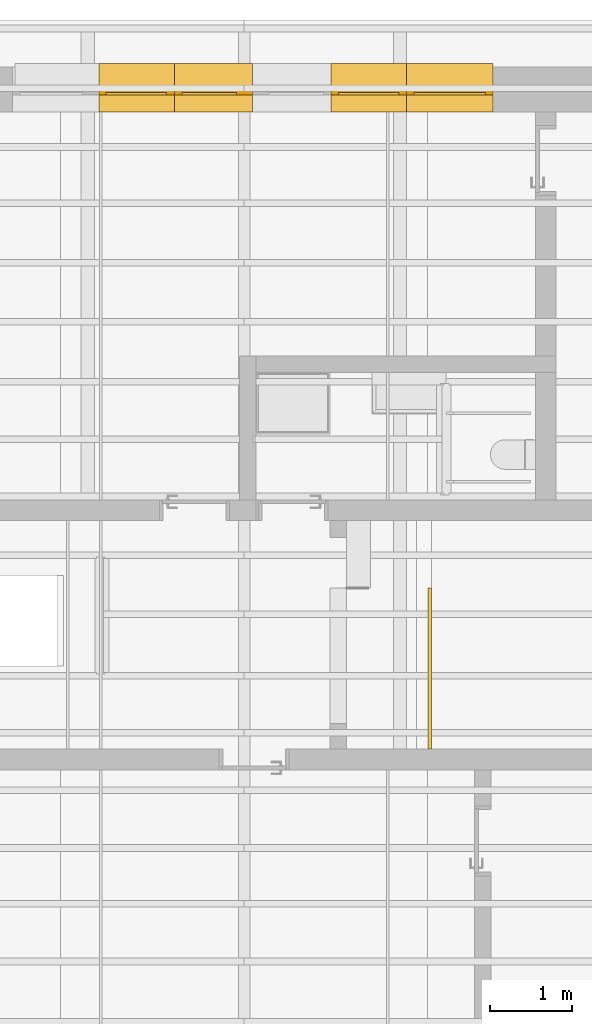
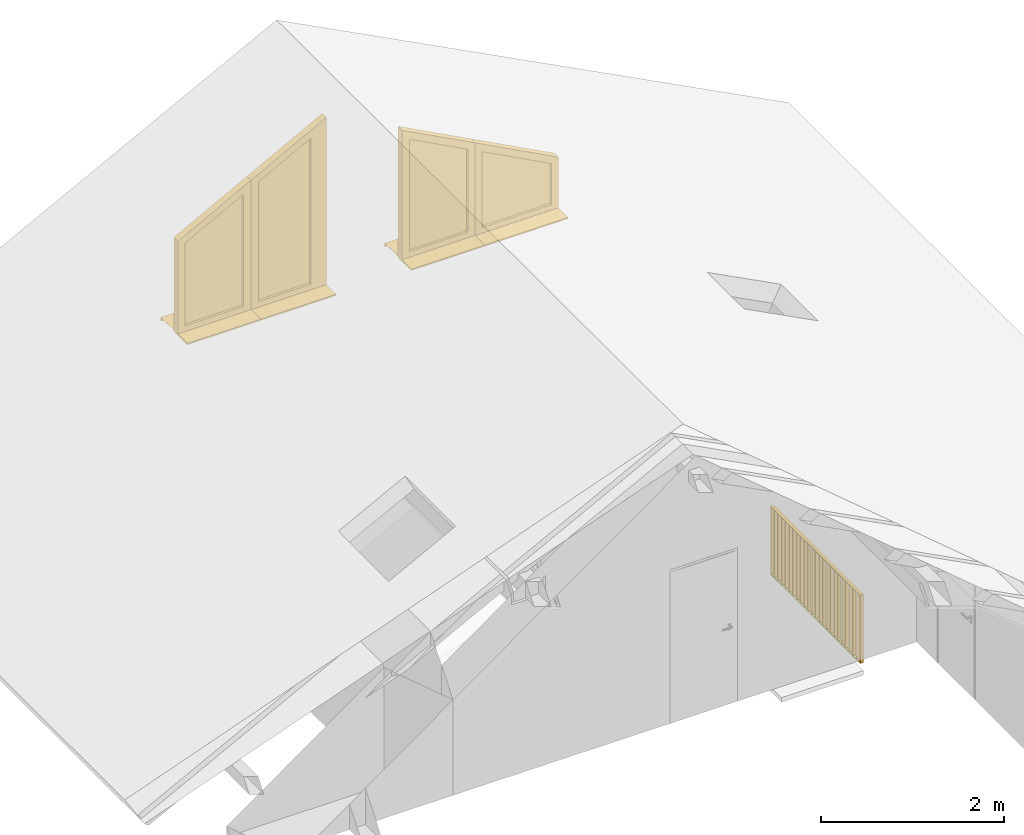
# One storey, part 15 of 18: 4 windows, 1 railing.
"""IFC2X3 building model written with IfcOpenShell, lengths in metres."""

from ifc_helpers import new_model, entity, si_unit, converted_unit, derived_unit, direction, frame, frame_2d, origin, origin_2d_with_axis, place, context, subcontext, project, spatial, polyline, rectangle, outline, extrude, faceted_brep, source, transform, mapped, material, material_list, type_object, type_shapes, element, save


model = new_model("IFC2X3")

# Units and contexts
model_context = context("Model", 3, precision=1e-05, world=origin(), true_north=direction((6.123233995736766e-17, 1.0)))
body_context = subcontext(model_context, "Body", "Model", "MODEL_VIEW")
ifc_project = project(units=[si_unit("LENGTHUNIT", "METRE"), si_unit("AREAUNIT", "SQUARE_METRE"), si_unit("VOLUMEUNIT", "CUBIC_METRE"), si_unit("POWERUNIT", "WATT"), derived_unit("USERDEFINED", [(si_unit("MASSUNIT", "GRAM", prefix="KILO"), 1), (si_unit("TIMEUNIT", "SECOND"), -3)]), derived_unit("THERMALRESISTANCEUNIT", [(si_unit("MASSUNIT", "GRAM", prefix="KILO"), -1), (si_unit("TIMEUNIT", "SECOND"), 3), (si_unit("THERMODYNAMICTEMPERATUREUNIT", "KELVIN"), 1)]), derived_unit("USERDEFINED", [(si_unit("MASSUNIT", "GRAM", prefix="KILO"), 1), (si_unit("TIMEUNIT", "SECOND"), -2), (si_unit("THERMODYNAMICTEMPERATUREUNIT", "KELVIN"), -1)]), derived_unit("THERMALTRANSMITTANCEUNIT", [(si_unit("MASSUNIT", "GRAM", prefix="KILO"), 1), (si_unit("TIMEUNIT", "SECOND"), -3), (si_unit("THERMODYNAMICTEMPERATUREUNIT", "KELVIN"), -1)]), converted_unit("PLANEANGLEUNIT", "DEGREE", entity("IfcPlaneAngleMeasure", 0.017453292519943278), si_unit("PLANEANGLEUNIT", "RADIAN"), dimensions=[0, 0, 0, 0, 0, 0, 0]), derived_unit("MOMENTOFINERTIAUNIT", [(si_unit("LENGTHUNIT", "METRE"), 4)])], contexts=[model_context])

# Site, building, storey
site_placement = place(None, origin())
site = spatial("IfcSite", under=ifc_project, at=site_placement, Name="Default", CompositionType="ELEMENT")
building_placement = place(site_placement, origin())
building = spatial("IfcBuilding", under=site, at=building_placement, CompositionType="ELEMENT")
storey_placement = place(building_placement, frame((0.0, 0.0, 5.4)))
storey = spatial("IfcBuildingStorey", under=building, at=storey_placement, Name="1. Obergeschoss", CompositionType="ELEMENT", Elevation=5.4)

# Windows
ifc_material_1 = material(Name="Holz - generisch 140-100-70")
ifc_material_2 = material(Name="Kunststoff - grau 70-70-70")
ifc_material_3 = material(Name="Glas - Isolierverglasung klar")
ifc_material_list = material_list([ifc_material_1, ifc_material_2, ifc_material_3])
window_style_1 = type_object("IfcWindowStyle", Name="FE Schräg 1 tlg - Fix:920 x 1258", ConstructionType="NOTDEFINED", OperationType="NOTDEFINED", ParameterTakesPrecedence=False, Sizeable=False, material=ifc_material_list)
shared_shape_1 = source(origin(), body_context, "Body", "SolidModel", [
    extrude(outline(polyline([(-0.07333333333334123, -0.014333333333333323), (0.1366666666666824, -0.014333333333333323), (0.1366666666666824, 0.010666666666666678), (-0.06333333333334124, 0.010666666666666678), (-0.06333333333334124, 0.0036666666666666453), (-0.07333333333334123, 0.0036666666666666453), (-0.07333333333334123, -0.014333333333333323)])), frame((0.9200000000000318, 0.6433333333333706, 0.010666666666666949), z_axis=(-1.0, 0.0, 0.0), x_axis=(0.0, 1.0, 0.0)), (0.0, 0.0, 1.0), 0.9199999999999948),
    extrude(outline(polyline([(-0.9960295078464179, -0.4599999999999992), (0.7514431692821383, -0.4599999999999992), (0.7514431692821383, 0.4599999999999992), (-0.506856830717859, 0.4599999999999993), (-0.9960295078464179, -0.4599999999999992)]), holes=[polyline([(-0.8435858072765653, -0.36500000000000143), (-0.4527793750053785, 0.3699999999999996), (0.6514431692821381, 0.3699999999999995), (0.6514431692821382, -0.36500000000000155), (-0.8435858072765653, -0.36500000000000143)])]), frame((0.4600000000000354, 0.8700000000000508, 0.7514431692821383), z_axis=(0.0, -1.0, 0.0), x_axis=(0.0, 0.0, -1.0)), (0.0, 0.0, 1.0), 0.08999999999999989),
    extrude(outline(polyline([(-0.8452160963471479, -0.3675000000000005), (0.6498128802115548, -0.3675000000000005), (0.6498128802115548, 0.3675000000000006), (-0.4544096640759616, 0.3675000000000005), (-0.8452160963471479, -0.3675000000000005)])), frame((0.4625000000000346, 0.855000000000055, 0.7498128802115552), z_axis=(0.0, -1.0, 0.0), x_axis=(0.0, 0.0, -1.0)), (0.0, 0.0, 1.0), 0.04399999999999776),
    faceted_brep([(0.9200000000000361, 1.1620000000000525, 0.011185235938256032), (0.0, 1.1620000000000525, 0.011185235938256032), (0.0, 1.1400000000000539, 0.01200005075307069), (0.0, 0.8720000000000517, 0.021925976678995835), (0.9200000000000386, 0.8720000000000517, 0.021925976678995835), (0.9200000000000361, 1.1400000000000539, 0.01200005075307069), (0.9200000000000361, 1.1620000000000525, -0.028814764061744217), (0.0, 1.1620000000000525, -0.028814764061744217), (0.9200000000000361, 1.1500000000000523, -0.028814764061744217), (0.0, 1.1500000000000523, -0.028814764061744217), (0.9200000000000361, 1.1500000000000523, -0.0268147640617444), (0.0, 1.1500000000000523, -0.0268147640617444), (0.9200000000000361, 1.1600000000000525, -0.0268147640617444), (0.0, 1.1600000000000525, -0.0268147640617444), (0.9200000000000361, 1.1600000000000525, 0.009259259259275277), (0.0, 1.1600000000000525, 0.009259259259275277), (0.9200000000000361, 1.1400000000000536, 0.010000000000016), (0.9200000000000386, 0.8700000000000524, 0.02000000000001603), (0.0, 0.8700000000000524, 0.02000000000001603), (0.0, 1.1400000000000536, 0.010000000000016), (0.9200000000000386, 0.8700000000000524, 0.040000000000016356), (0.0, 0.8700000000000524, 0.040000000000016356), (0.9200000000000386, 0.8720000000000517, 0.040000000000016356), (0.0, 0.8720000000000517, 0.040000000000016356)], [[[0, 1, 2, 3, 4, 5]], [[6, 7, 1, 0]], [[8, 9, 7, 6]], [[10, 11, 9, 8]], [[12, 13, 11, 10]], [[14, 15, 13, 12]], [[16, 17, 18, 19, 15, 14]], [[20, 21, 18, 17]], [[22, 23, 21, 20]], [[4, 3, 23, 22]], [[16, 14, 12, 10, 8, 6, 0, 5]], [[19, 18, 21, 23, 3, 2]], [[5, 4, 22, 20, 17, 16]], [[2, 1, 7, 9, 11, 13, 15, 19]]]),
])
type_shapes(window_style_1, [shared_shape_1])
window_1_placement = place(storey_placement, frame((34.17797000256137, 27.472272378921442, 0.7024999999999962)))
element("IfcWindow", 1, at=window_1_placement, inside=storey, type_object=window_style_1, material=ifc_material_list, Name="FE Schräg 1 tlg - Fix:920 x 1258", ObjectType="FE Schräg 1 tlg - Fix:920 x 1258", OverallHeight=2.597472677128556, OverallWidth=1.0257961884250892, context=body_context, shape_type="MappedRepresentation", body=[
    mapped(shared_shape_1, transform((0.0, 0.0, 0.0), scale=1.0)),
])
window_style_2 = type_object("IfcWindowStyle", Name="FE Schräg 1 tlg - Fix:950 x 1747", ConstructionType="NOTDEFINED", OperationType="NOTDEFINED", ParameterTakesPrecedence=False, Sizeable=False, material=ifc_material_list)
shared_shape_2 = source(origin(), body_context, "Body", "SolidModel", [
    extrude(outline(polyline([(-0.014333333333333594, -0.07333333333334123), (0.0036666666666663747, -0.07333333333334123), (0.0036666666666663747, -0.06333333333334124), (0.010666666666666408, -0.06333333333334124), (0.010666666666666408, 0.1366666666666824), (-0.014333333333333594, 0.1366666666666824), (-0.014333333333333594, -0.07333333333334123)])), frame((0.0, 0.07333333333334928, 0.010666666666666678), z_axis=(1.0, 0.0, 0.0), x_axis=(0.0, 0.0, -1.0)), (0.0, 0.0, 1.0), 0.9499999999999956),
    extrude(outline(polyline([(-1.2525929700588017, -0.4749999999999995), (1.0000309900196, -0.4749999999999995), (1.0000309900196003, 0.4749999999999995), (-0.7474690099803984, 0.47499999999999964), (-1.2525929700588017, -0.4749999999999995)]), holes=[polyline([(-1.0469783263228, -0.27999999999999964), (-0.6933915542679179, 0.3850000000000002), (0.9000309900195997, 0.38500000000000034), (0.9000309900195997, -0.27999999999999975), (-1.0469783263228, -0.27999999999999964)])]), frame((0.47500000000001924, 0.2100000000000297, 1.0000309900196), z_axis=(0.0, 1.0, 0.0), x_axis=(0.0, 0.0, -1.0)), (0.0, 0.0, 1.0), 0.08999999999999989),
    extrude(outline(polyline([(-1.061901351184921, -0.3325), (0.8851079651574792, -0.3325), (0.8851079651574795, 0.3325), (-0.7083145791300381, 0.3325), (-1.061901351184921, -0.3325)])), frame((0.4225000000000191, 0.24100000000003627, 0.9851079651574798), z_axis=(0.0, 1.0, 0.0), x_axis=(0.0, 0.0, -1.0)), (0.0, 0.0, 1.0), 0.043999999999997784),
    faceted_brep([(0.0, 0.5920000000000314, 0.011185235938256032), (0.0, 0.5700000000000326, 0.01200005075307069), (0.0, 0.30200000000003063, 0.021925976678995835), (0.9500000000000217, 0.30200000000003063, 0.021925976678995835), (0.9500000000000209, 0.5700000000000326, 0.01200005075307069), (0.9500000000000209, 0.5920000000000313, 0.011185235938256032), (0.0, 0.5920000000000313, -0.028814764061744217), (0.9500000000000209, 0.5920000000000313, -0.028814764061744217), (0.0, 0.5800000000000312, -0.028814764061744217), (0.9500000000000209, 0.5800000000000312, -0.028814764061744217), (0.0, 0.5800000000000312, -0.0268147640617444), (0.9500000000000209, 0.5800000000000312, -0.0268147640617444), (0.0, 0.5900000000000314, -0.0268147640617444), (0.9500000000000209, 0.5900000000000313, -0.0268147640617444), (0.0, 0.5900000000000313, 0.009259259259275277), (0.9500000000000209, 0.5900000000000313, 0.009259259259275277), (0.0, 0.5700000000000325, 0.010000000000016), (0.9500000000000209, 0.5700000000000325, 0.010000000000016), (0.9500000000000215, 0.30000000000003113, 0.02000000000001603), (0.0, 0.30000000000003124, 0.02000000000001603), (0.0, 0.30000000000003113, 0.040000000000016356), (0.9500000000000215, 0.30000000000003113, 0.040000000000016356), (0.0, 0.30200000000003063, 0.040000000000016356), (0.9500000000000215, 0.30200000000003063, 0.040000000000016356)], [[[0, 1, 2, 3, 4, 5]], [[6, 0, 5, 7]], [[8, 6, 7, 9]], [[10, 8, 9, 11]], [[12, 10, 11, 13]], [[14, 12, 13, 15]], [[16, 14, 15, 17, 18, 19]], [[20, 19, 18, 21]], [[22, 20, 21, 23]], [[2, 22, 23, 3]], [[16, 1, 0, 6, 8, 10, 12, 14]], [[17, 4, 3, 23, 21, 18]], [[1, 16, 19, 20, 22, 2]], [[4, 17, 15, 13, 11, 9, 7, 5]]]),
])
type_shapes(window_style_2, [shared_shape_2])
window_2_placement = place(storey_placement, frame((32.27797000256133, 28.042272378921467, 0.7024999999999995)))
element("IfcWindow", 2, at=window_2_placement, inside=storey, type_object=window_style_2, material=ifc_material_list, Name="FE Schräg 1 tlg - Fix:950 x 1747", ObjectType="FE Schräg 1 tlg - Fix:950 x 1747", OverallHeight=3.1026239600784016, OverallWidth=1.0557961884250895, context=body_context, shape_type="MappedRepresentation", body=[
    mapped(shared_shape_2, transform((0.0, 0.0, 0.0), scale=1.0)),
])
window_style_3 = type_object("IfcWindowStyle", Name="FE Schräg 1 tlg - Fix:920 x 1258", ConstructionType="NOTDEFINED", OperationType="NOTDEFINED", ParameterTakesPrecedence=False, Sizeable=False, material=ifc_material_list)
shared_shape_3 = source(origin(), body_context, "Body", "SolidModel", [
    extrude(outline(polyline([(-0.014333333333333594, -0.07333333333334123), (0.0036666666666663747, -0.07333333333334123), (0.0036666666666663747, -0.06333333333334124), (0.010666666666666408, -0.06333333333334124), (0.010666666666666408, 0.1366666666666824), (-0.014333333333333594, 0.1366666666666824), (-0.014333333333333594, -0.07333333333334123)])), frame((0.0, 0.07333333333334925, 0.010666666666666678), z_axis=(1.0, 0.0, 0.0), x_axis=(0.0, 0.0, -1.0)), (0.0, 0.0, 1.0), 0.9199999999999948),
    extrude(outline(polyline([(-0.9960295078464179, -0.4599999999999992), (0.7514431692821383, -0.4599999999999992), (0.7514431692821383, 0.4599999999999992), (-0.506856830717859, 0.4599999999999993), (-0.9960295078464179, -0.4599999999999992)]), holes=[polyline([(-0.8435858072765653, -0.36500000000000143), (-0.4527793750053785, 0.3699999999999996), (0.6514431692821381, 0.3699999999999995), (0.6514431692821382, -0.36500000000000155), (-0.8435858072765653, -0.36500000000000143)])]), frame((0.4600000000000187, 0.21000000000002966, 0.7514431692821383), z_axis=(0.0, 1.0, 0.0), x_axis=(0.0, 0.0, -1.0)), (0.0, 0.0, 1.0), 0.08999999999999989),
    extrude(outline(polyline([(-0.8452160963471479, -0.3675000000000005), (0.6498128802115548, -0.3675000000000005), (0.6498128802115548, 0.3675000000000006), (-0.4544096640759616, 0.3675000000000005), (-0.8452160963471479, -0.3675000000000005)])), frame((0.45750000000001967, 0.24100000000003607, 0.7498128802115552), z_axis=(0.0, 1.0, 0.0), x_axis=(0.0, 0.0, -1.0)), (0.0, 0.0, 1.0), 0.04399999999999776),
    faceted_brep([(0.0, 0.5920000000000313, 0.011185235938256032), (0.0, 0.5700000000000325, 0.01200005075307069), (0.0, 0.3020000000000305, 0.021925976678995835), (0.920000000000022, 0.3020000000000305, 0.021925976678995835), (0.9200000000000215, 0.5700000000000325, 0.01200005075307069), (0.9200000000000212, 0.5920000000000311, 0.011185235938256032), (0.0, 0.5920000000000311, -0.028814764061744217), (0.9200000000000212, 0.5920000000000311, -0.028814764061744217), (0.0, 0.5800000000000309, -0.028814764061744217), (0.9200000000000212, 0.5800000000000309, -0.028814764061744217), (0.0, 0.5800000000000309, -0.0268147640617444), (0.9200000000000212, 0.5800000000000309, -0.0268147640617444), (0.0, 0.5900000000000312, -0.0268147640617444), (0.9200000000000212, 0.5900000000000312, -0.0268147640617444), (0.0, 0.5900000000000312, 0.009259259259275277), (0.9200000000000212, 0.5900000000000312, 0.009259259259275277), (0.0, 0.5700000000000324, 0.010000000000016), (0.9200000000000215, 0.5700000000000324, 0.010000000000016), (0.920000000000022, 0.3000000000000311, 0.02000000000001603), (0.0, 0.30000000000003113, 0.02000000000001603), (0.0, 0.3000000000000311, 0.040000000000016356), (0.920000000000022, 0.3000000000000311, 0.040000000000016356), (0.0, 0.3020000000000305, 0.040000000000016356), (0.920000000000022, 0.3020000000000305, 0.040000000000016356)], [[[0, 1, 2, 3, 4, 5]], [[6, 0, 5, 7]], [[8, 6, 7, 9]], [[10, 8, 9, 11]], [[12, 10, 11, 13]], [[14, 12, 13, 15]], [[16, 14, 15, 17, 18, 19]], [[20, 19, 18, 21]], [[22, 20, 21, 23]], [[2, 22, 23, 3]], [[16, 1, 0, 6, 8, 10, 12, 14]], [[17, 4, 3, 23, 21, 18]], [[1, 16, 19, 20, 22, 2]], [[4, 17, 15, 13, 11, 9, 7, 5]]]),
])
type_shapes(window_style_3, [shared_shape_3])
window_3_placement = place(storey_placement, frame((31.357970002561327, 28.042272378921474, 0.7024999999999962)))
element("IfcWindow", 3, at=window_3_placement, inside=storey, type_object=window_style_3, material=ifc_material_list, Name="FE Schräg 1 tlg - Fix:920 x 1258", ObjectType="FE Schräg 1 tlg - Fix:920 x 1258", OverallHeight=2.597472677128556, OverallWidth=1.0257961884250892, context=body_context, shape_type="MappedRepresentation", body=[
    mapped(shared_shape_3, transform((0.0, 0.0, 0.0), scale=1.0)),
])
window_style_4 = type_object("IfcWindowStyle", Name="FE Schräg 1 tlg - Fix:700 x 1050", ConstructionType="NOTDEFINED", OperationType="NOTDEFINED", ParameterTakesPrecedence=False, Sizeable=False, material=ifc_material_list)
shared_shape_4 = source(origin(), body_context, "Body", "SolidModel", [
    extrude(outline(polyline([(-0.07333333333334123, -0.014333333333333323), (0.1366666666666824, -0.014333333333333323), (0.1366666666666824, 0.010666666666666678), (-0.06333333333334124, 0.010666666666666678), (-0.06333333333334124, 0.0036666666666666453), (-0.07333333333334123, 0.0036666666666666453), (-0.07333333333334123, -0.014333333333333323)])), frame((1.0500000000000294, 0.6433333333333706, 0.010666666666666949), z_axis=(-1.0, 0.0, 0.0), x_axis=(0.0, 1.0, 0.0)), (0.0, 0.0, 1.0), 1.0499999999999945),
    extrude(outline(polyline([(-0.768721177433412, -0.5249999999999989), (0.4895737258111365, -0.5249999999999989), (0.48957372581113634, 0.5249999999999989), (-0.2104262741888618, 0.524999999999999), (-0.768721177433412, -0.5249999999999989)]), holes=[polyline([(-0.6189360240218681, -0.43500000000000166), (-0.15634881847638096, 0.43500000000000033), (0.3895737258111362, 0.43500000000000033), (0.3895737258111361, -0.4350000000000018), (-0.6189360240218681, -0.43500000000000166)])]), frame((0.5250000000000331, 0.8700000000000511, 0.4895737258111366), z_axis=(0.0, -1.0, 0.0), x_axis=(0.0, 0.0, -1.0)), (0.0, 0.0, 1.0), 0.08999999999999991),
    extrude(outline(polyline([(-0.6199016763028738, -0.4350000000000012), (0.38860807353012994, -0.4350000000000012), (0.3886080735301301, 0.43500000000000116), (-0.15731447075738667, 0.43500000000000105), (-0.6199016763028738, -0.4350000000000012)])), frame((0.5250000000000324, 0.8550000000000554, 0.48860807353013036), z_axis=(0.0, -1.0, 0.0), x_axis=(0.0, 0.0, -1.0)), (0.0, 0.0, 1.0), 0.043999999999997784),
    faceted_brep([(1.0500000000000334, 1.1620000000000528, 0.011185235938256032), (0.0, 1.162000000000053, 0.011185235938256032), (0.0, 1.1400000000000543, 0.01200005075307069), (0.0, 0.8720000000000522, 0.021925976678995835), (1.0500000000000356, 0.8720000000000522, 0.021925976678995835), (1.0500000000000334, 1.1400000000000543, 0.01200005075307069), (1.0500000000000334, 1.1620000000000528, -0.028814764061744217), (0.0, 1.1620000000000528, -0.028814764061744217), (1.0500000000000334, 1.1500000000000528, -0.028814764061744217), (0.0, 1.1500000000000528, -0.028814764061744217), (1.0500000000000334, 1.1500000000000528, -0.0268147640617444), (0.0, 1.1500000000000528, -0.0268147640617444), (1.0500000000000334, 1.160000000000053, -0.0268147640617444), (0.0, 1.160000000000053, -0.0268147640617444), (1.0500000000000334, 1.160000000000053, 0.009259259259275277), (0.0, 1.160000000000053, 0.009259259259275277), (1.0500000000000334, 1.140000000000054, 0.010000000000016), (1.0500000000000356, 0.8700000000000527, 0.02000000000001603), (0.0, 0.870000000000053, 0.02000000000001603), (0.0, 1.140000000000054, 0.010000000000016), (1.0500000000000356, 0.8700000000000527, 0.040000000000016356), (0.0, 0.8700000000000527, 0.040000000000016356), (1.0500000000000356, 0.8720000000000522, 0.040000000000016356), (0.0, 0.8720000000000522, 0.040000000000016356)], [[[0, 1, 2, 3, 4, 5]], [[6, 7, 1, 0]], [[8, 9, 7, 6]], [[10, 11, 9, 8]], [[12, 13, 11, 10]], [[14, 15, 13, 12]], [[16, 17, 18, 19, 15, 14]], [[20, 21, 18, 17]], [[22, 23, 21, 20]], [[4, 3, 23, 22]], [[16, 14, 12, 10, 8, 6, 0, 5]], [[19, 18, 21, 23, 3, 2]], [[5, 4, 22, 20, 17, 16]], [[2, 1, 7, 9, 11, 13, 15, 19]]]),
])
type_shapes(window_style_4, [shared_shape_4])
window_4_placement = place(storey_placement, frame((35.097970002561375, 27.47227237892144, 0.7024999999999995)))
element("IfcWindow", 4, at=window_4_placement, inside=storey, type_object=window_style_4, material=ifc_material_list, Name="FE Schräg 1 tlg - Fix:700 x 1050", ObjectType="FE Schräg 1 tlg - Fix:700 x 1050", OverallHeight=2.258715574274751, OverallWidth=1.1557961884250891, context=body_context, shape_type="MappedRepresentation", body=[
    mapped(shared_shape_4, transform((0.0, 0.0, 0.0), scale=1.0)),
])

# Railing
railing_type = type_object("IfcRailingType", Name="Geländer:Vertikale Stäbe", PredefinedType="NOTDEFINED")
railing_placement = place(storey_placement, frame((35.35875489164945, 20.30227237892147, -0.24500000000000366)))
element("IfcRailing", 5, at=railing_placement, inside=storey, type_object=railing_type, material=ifc_material_2, Name="Geländer:Vertikale Stäbe", ObjectType="Geländer:Vertikale Stäbe", PredefinedType="NOTDEFINED", context=body_context, shape_type="SweptSolid", body=[
    extrude(rectangle(XDim=0.010000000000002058, YDim=0.03999999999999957, at=origin_2d_with_axis()), frame((0.020000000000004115, 0.08166666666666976, 0.009999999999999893), z_axis=(0.0, 0.0, 1.0), x_axis=(0.0, -1.0, 0.0)), (0.0, 0.0, 1.0), 0.8899999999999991),
    extrude(rectangle(XDim=0.010000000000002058, YDim=0.03999999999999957, at=origin_2d_with_axis()), frame((0.020000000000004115, 0.1633333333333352, 0.009999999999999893), z_axis=(0.0, 0.0, 1.0), x_axis=(0.0, -1.0, 0.0)), (0.0, 0.0, 1.0), 0.8899999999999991),
    extrude(rectangle(XDim=0.010000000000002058, YDim=0.03999999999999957, at=origin_2d_with_axis()), frame((0.020000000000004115, 0.2450000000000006, 0.009999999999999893), z_axis=(0.0, 0.0, 1.0), x_axis=(0.0, -1.0, 0.0)), (0.0, 0.0, 1.0), 0.8899999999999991),
    extrude(rectangle(XDim=0.010000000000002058, YDim=0.03999999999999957, at=origin_2d_with_axis()), frame((0.020000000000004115, 0.32666666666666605, 0.009999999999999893), z_axis=(0.0, 0.0, 1.0), x_axis=(0.0, -1.0, 0.0)), (0.0, 0.0, 1.0), 0.8899999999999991),
    extrude(rectangle(XDim=0.010000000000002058, YDim=0.03999999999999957, at=origin_2d_with_axis()), frame((0.020000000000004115, 0.4083333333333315, 0.009999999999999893), z_axis=(0.0, 0.0, 1.0), x_axis=(0.0, -1.0, 0.0)), (0.0, 0.0, 1.0), 0.8899999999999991),
    extrude(rectangle(XDim=0.010000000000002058, YDim=0.03999999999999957, at=origin_2d_with_axis()), frame((0.020000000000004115, 0.4899999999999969, 0.009999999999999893), z_axis=(0.0, 0.0, 1.0), x_axis=(0.0, -1.0, 0.0)), (0.0, 0.0, 1.0), 0.8899999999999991),
    extrude(rectangle(XDim=0.010000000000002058, YDim=0.03999999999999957, at=origin_2d_with_axis()), frame((0.020000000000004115, 0.5716666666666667, 0.009999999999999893), z_axis=(0.0, 0.0, 1.0), x_axis=(0.0, -1.0, 0.0)), (0.0, 0.0, 1.0), 0.8899999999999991),
    extrude(rectangle(XDim=0.010000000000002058, YDim=0.03999999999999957, at=origin_2d_with_axis()), frame((0.020000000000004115, 0.6533333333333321, 0.009999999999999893), z_axis=(0.0, 0.0, 1.0), x_axis=(0.0, -1.0, 0.0)), (0.0, 0.0, 1.0), 0.8899999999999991),
    extrude(rectangle(XDim=0.010000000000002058, YDim=0.03999999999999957, at=origin_2d_with_axis()), frame((0.020000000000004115, 0.7349999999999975, 0.009999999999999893), z_axis=(0.0, 0.0, 1.0), x_axis=(0.0, -1.0, 0.0)), (0.0, 0.0, 1.0), 0.8899999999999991),
    extrude(rectangle(XDim=0.010000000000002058, YDim=0.03999999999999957, at=origin_2d_with_axis()), frame((0.020000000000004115, 0.816666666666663, 0.009999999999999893), z_axis=(0.0, 0.0, 1.0), x_axis=(0.0, -1.0, 0.0)), (0.0, 0.0, 1.0), 0.8899999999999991),
    extrude(rectangle(XDim=0.010000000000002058, YDim=0.03999999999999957, at=origin_2d_with_axis()), frame((0.020000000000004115, 0.8983333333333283, 0.009999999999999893), z_axis=(0.0, 0.0, 1.0), x_axis=(0.0, -1.0, 0.0)), (0.0, 0.0, 1.0), 0.8899999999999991),
    extrude(rectangle(XDim=0.010000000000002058, YDim=0.039999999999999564, at=frame_2d((0.0, 4.331604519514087e-15), x_axis=(1.0, 0.0))), frame((0.020000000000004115, 0.9799999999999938, 0.009999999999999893), z_axis=(0.0, 0.0, 1.0), x_axis=(0.0, -1.0, 0.0)), (0.0, 0.0, 1.0), 0.8899999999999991),
    extrude(rectangle(XDim=0.010000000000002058, YDim=0.039999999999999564, at=frame_2d((0.0, 4.331604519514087e-15), x_axis=(1.0, 0.0))), frame((0.020000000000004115, 1.0616666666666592, 0.009999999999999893), z_axis=(0.0, 0.0, 1.0), x_axis=(0.0, -1.0, 0.0)), (0.0, 0.0, 1.0), 0.8899999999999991),
    extrude(rectangle(XDim=0.010000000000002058, YDim=0.039999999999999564, at=frame_2d((0.0, 4.331604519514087e-15), x_axis=(1.0, 0.0))), frame((0.020000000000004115, 1.1433333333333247, 0.009999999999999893), z_axis=(0.0, 0.0, 1.0), x_axis=(0.0, -1.0, 0.0)), (0.0, 0.0, 1.0), 0.8899999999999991),
    extrude(rectangle(XDim=0.010000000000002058, YDim=0.039999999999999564, at=frame_2d((0.0, 4.331604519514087e-15), x_axis=(1.0, 0.0))), frame((0.020000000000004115, 1.22499999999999, 0.009999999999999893), z_axis=(0.0, 0.0, 1.0), x_axis=(0.0, -1.0, 0.0)), (0.0, 0.0, 1.0), 0.8899999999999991),
    extrude(rectangle(XDim=0.010000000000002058, YDim=0.039999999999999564, at=frame_2d((0.0, 4.331604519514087e-15), x_axis=(1.0, 0.0))), frame((0.020000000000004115, 1.3066666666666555, 0.009999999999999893), z_axis=(0.0, 0.0, 1.0), x_axis=(0.0, -1.0, 0.0)), (0.0, 0.0, 1.0), 0.8899999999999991),
    extrude(rectangle(XDim=0.010000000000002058, YDim=0.039999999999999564, at=frame_2d((0.0, 4.331604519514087e-15), x_axis=(1.0, 0.0))), frame((0.020000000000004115, 1.388333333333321, 0.009999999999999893), z_axis=(0.0, 0.0, 1.0), x_axis=(0.0, -1.0, 0.0)), (0.0, 0.0, 1.0), 0.8899999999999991),
    extrude(rectangle(XDim=0.010000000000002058, YDim=0.039999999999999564, at=frame_2d((0.0, 4.331604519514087e-15), x_axis=(1.0, 0.0))), frame((0.020000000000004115, 1.4699999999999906, 0.009999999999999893), z_axis=(0.0, 0.0, 1.0), x_axis=(0.0, -1.0, 0.0)), (0.0, 0.0, 1.0), 0.8899999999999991),
    extrude(rectangle(XDim=0.010000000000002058, YDim=0.039999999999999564, at=frame_2d((0.0, 4.331604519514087e-15), x_axis=(1.0, 0.0))), frame((0.020000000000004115, 1.551666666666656, 0.009999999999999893), z_axis=(0.0, 0.0, 1.0), x_axis=(0.0, -1.0, 0.0)), (0.0, 0.0, 1.0), 0.8899999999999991),
    extrude(rectangle(XDim=0.010000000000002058, YDim=0.039999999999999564, at=frame_2d((0.0, 4.331604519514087e-15), x_axis=(1.0, 0.0))), frame((0.020000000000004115, 1.6333333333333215, 0.009999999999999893), z_axis=(0.0, 0.0, 1.0), x_axis=(0.0, -1.0, 0.0)), (0.0, 0.0, 1.0), 0.8899999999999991),
    extrude(rectangle(XDim=0.010000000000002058, YDim=0.039999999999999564, at=frame_2d((0.0, 4.331604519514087e-15), x_axis=(1.0, 0.0))), frame((0.020000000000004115, 1.714999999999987, 0.009999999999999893), z_axis=(0.0, 0.0, 1.0), x_axis=(0.0, -1.0, 0.0)), (0.0, 0.0, 1.0), 0.8899999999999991),
    extrude(rectangle(XDim=0.010000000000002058, YDim=0.039999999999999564, at=frame_2d((0.0, 4.331604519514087e-15), x_axis=(1.0, 0.0))), frame((0.020000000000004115, 1.7966666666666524, 0.009999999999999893), z_axis=(0.0, 0.0, 1.0), x_axis=(0.0, -1.0, 0.0)), (0.0, 0.0, 1.0), 0.8899999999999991),
    extrude(rectangle(XDim=0.010000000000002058, YDim=0.039999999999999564, at=frame_2d((0.0, 4.331604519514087e-15), x_axis=(1.0, 0.0))), frame((0.020000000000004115, 1.8783333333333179, 0.009999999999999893), z_axis=(0.0, 0.0, 1.0), x_axis=(0.0, -1.0, 0.0)), (0.0, 0.0, 1.0), 0.8899999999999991),
    extrude(rectangle(XDim=0.010000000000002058, YDim=0.03999999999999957, at=origin_2d_with_axis()), frame((0.020000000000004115, 0.005000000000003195, 0.009999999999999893), z_axis=(0.0, 0.0, 1.0), x_axis=(0.0, -1.0, 0.0)), (0.0, 0.0, 1.0), 0.8899999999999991),
    extrude(rectangle(XDim=0.010000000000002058, YDim=0.039999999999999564, at=frame_2d((0.0, 4.331604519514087e-15), x_axis=(1.0, 0.0))), frame((0.020000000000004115, 1.9549999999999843, 0.009999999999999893), z_axis=(0.0, 0.0, 1.0), x_axis=(0.0, -1.0, 0.0)), (0.0, 0.0, 1.0), 0.8899999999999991),
    extrude(rectangle(XDim=1.9599999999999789, YDim=0.03999999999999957, at=frame_2d((0.0, 2.1649348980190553e-15), x_axis=(1.0, 0.0))), frame((0.020000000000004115, 0.9799999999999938, 0.9), z_axis=(0.0, 0.0, 1.0), x_axis=(0.0, -1.0, 0.0)), (0.0, 0.0, 1.0), 0.009999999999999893),
    extrude(rectangle(XDim=1.9599999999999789, YDim=0.03999999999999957, at=frame_2d((0.0, 2.1649348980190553e-15), x_axis=(1.0, 0.0))), frame((0.020000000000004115, 0.9799999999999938, 0.0), z_axis=(0.0, 0.0, 1.0), x_axis=(0.0, -1.0, 0.0)), (0.0, 0.0, 1.0), 0.009999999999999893),
])

save(model, "model.ifc")
